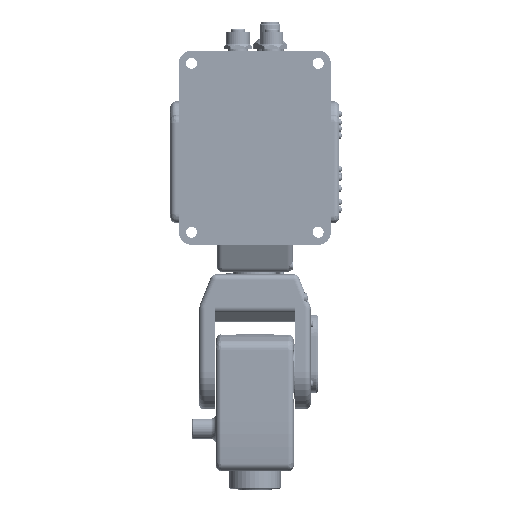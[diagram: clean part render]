
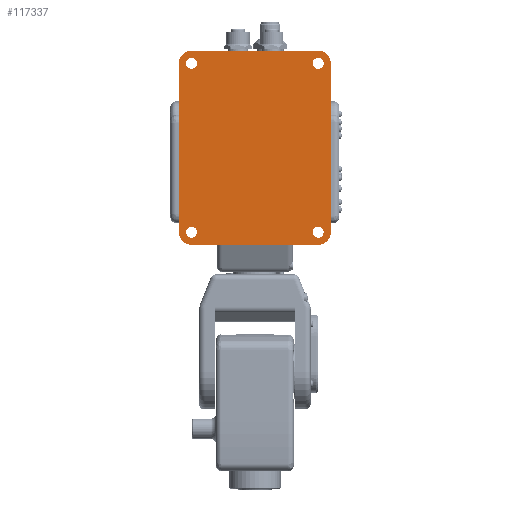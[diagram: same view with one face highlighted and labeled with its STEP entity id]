
A CAD part, front view. The second image highlights one B-rep face of the part: STEP entity #117337.
In plain terms, the highlighted planar face has unit normal (0, -1, 0).
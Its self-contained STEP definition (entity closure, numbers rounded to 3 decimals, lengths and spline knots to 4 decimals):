
#784=FACE_BOUND('',#16932,.T.);
#785=FACE_BOUND('',#16933,.T.);
#786=FACE_BOUND('',#16934,.T.);
#787=FACE_BOUND('',#16935,.T.);
#10019=FACE_OUTER_BOUND('',#16931,.T.);
#16931=EDGE_LOOP('',(#81354,#81355,#81356,#81357,#81358,#81359,#81360,#81361));
#16932=EDGE_LOOP('',(#81362));
#16933=EDGE_LOOP('',(#81363));
#16934=EDGE_LOOP('',(#81364));
#16935=EDGE_LOOP('',(#81365));
#22969=CIRCLE('',#124599,0.128);
#22971=CIRCLE('',#124602,0.128);
#22973=CIRCLE('',#124605,0.128);
#22975=CIRCLE('',#124608,0.128);
#22978=CIRCLE('',#124614,0.2953);
#22980=CIRCLE('',#124618,0.2953);
#22982=CIRCLE('',#124622,0.2953);
#22984=CIRCLE('',#124626,0.2953);
#25844=LINE('',#159416,#35551);
#28547=LINE('',#172721,#38254);
#28553=LINE('',#172765,#38260);
#28558=LINE('',#172810,#38265);
#35551=VECTOR('',#132249,0.3937);
#38254=VECTOR('',#137680,0.3937);
#38260=VECTOR('',#137694,0.3937);
#38265=VECTOR('',#137707,0.3937);
#45337=VERTEX_POINT('',#159413);
#45338=VERTEX_POINT('',#159415);
#47876=VERTEX_POINT('',#172690);
#47878=VERTEX_POINT('',#172696);
#47880=VERTEX_POINT('',#172702);
#47882=VERTEX_POINT('',#172708);
#47886=VERTEX_POINT('',#172718);
#47887=VERTEX_POINT('',#172720);
#47893=VERTEX_POINT('',#172758);
#47895=VERTEX_POINT('',#172764);
#47899=VERTEX_POINT('',#172803);
#47901=VERTEX_POINT('',#172809);
#56212=EDGE_CURVE('',#45338,#45337,#25844,.T.);
#60048=EDGE_CURVE('',#47876,#47876,#22969,.T.);
#60051=EDGE_CURVE('',#47878,#47878,#22971,.T.);
#60054=EDGE_CURVE('',#47880,#47880,#22973,.T.);
#60057=EDGE_CURVE('',#47882,#47882,#22975,.T.);
#60061=EDGE_CURVE('',#47887,#47886,#28547,.T.);
#60068=EDGE_CURVE('',#47893,#47887,#22978,.T.);
#60071=EDGE_CURVE('',#47895,#47893,#28553,.T.);
#60076=EDGE_CURVE('',#47899,#47895,#22980,.T.);
#60079=EDGE_CURVE('',#47901,#47899,#28558,.T.);
#60086=EDGE_CURVE('',#47886,#45338,#22982,.T.);
#60088=EDGE_CURVE('',#45337,#47901,#22984,.T.);
#81354=ORIENTED_EDGE('',*,*,#60076,.T.);
#81355=ORIENTED_EDGE('',*,*,#60071,.T.);
#81356=ORIENTED_EDGE('',*,*,#60068,.T.);
#81357=ORIENTED_EDGE('',*,*,#60061,.T.);
#81358=ORIENTED_EDGE('',*,*,#60086,.T.);
#81359=ORIENTED_EDGE('',*,*,#56212,.T.);
#81360=ORIENTED_EDGE('',*,*,#60088,.T.);
#81361=ORIENTED_EDGE('',*,*,#60079,.T.);
#81362=ORIENTED_EDGE('',*,*,#60048,.T.);
#81363=ORIENTED_EDGE('',*,*,#60051,.T.);
#81364=ORIENTED_EDGE('',*,*,#60054,.T.);
#81365=ORIENTED_EDGE('',*,*,#60057,.T.);
#107052=PLANE('',#124652);
#117337=ADVANCED_FACE('',(#10019,#784,#785,#786,#787),#107052,.F.);
#124599=AXIS2_PLACEMENT_3D('',#172692,#137649,#137650);
#124602=AXIS2_PLACEMENT_3D('',#172698,#137656,#137657);
#124605=AXIS2_PLACEMENT_3D('',#172704,#137663,#137664);
#124608=AXIS2_PLACEMENT_3D('',#172710,#137670,#137671);
#124614=AXIS2_PLACEMENT_3D('',#172759,#137688,#137689);
#124618=AXIS2_PLACEMENT_3D('',#172804,#137701,#137702);
#124622=AXIS2_PLACEMENT_3D('',#172866,#137715,#137716);
#124626=AXIS2_PLACEMENT_3D('',#172870,#137723,#137724);
#124652=AXIS2_PLACEMENT_3D('',#173149,#137782,#137783);
#132249=DIRECTION('',(1.,0.,0.));
#137649=DIRECTION('center_axis',(0.,1.,0.));
#137650=DIRECTION('ref_axis',(0.,0.,
1.));
#137656=DIRECTION('center_axis',(0.,1.,0.));
#137657=DIRECTION('ref_axis',(0.,0.,
1.));
#137663=DIRECTION('center_axis',(0.,1.,0.));
#137664=DIRECTION('ref_axis',(0.,0.,
1.));
#137670=DIRECTION('center_axis',(0.,1.,0.));
#137671=DIRECTION('ref_axis',(0.,0.,
1.));
#137680=DIRECTION('',(0.,0.,-1.));
#137688=DIRECTION('center_axis',(0.,-1.,0.));
#137689=DIRECTION('ref_axis',(0.,0.,
-1.));
#137694=DIRECTION('',(-1.,0.,0.));
#137701=DIRECTION('center_axis',(0.,-1.,0.));
#137702=DIRECTION('ref_axis',(-1.,0.,0.));
#137707=DIRECTION('',(0.,0.,1.));
#137715=DIRECTION('center_axis',(0.,-1.,0.));
#137716=DIRECTION('ref_axis',(1.,0.,0.));
#137723=DIRECTION('center_axis',(0.,-1.,0.));
#137724=DIRECTION('ref_axis',(0.,0.,
1.));
#137782=DIRECTION('center_axis',(0.,1.,0.));
#137783=DIRECTION('ref_axis',(-1.,0.,0.));
#159413=CARTESIAN_POINT('',(0.8644,-3.3713,-2.7559));
#159415=CARTESIAN_POINT('',(-2.0883,-3.3713,-2.7559));
#159416=CARTESIAN_POINT('',(0.1263,-3.3713,-2.7559));
#172690=CARTESIAN_POINT('',(0.8644,-3.3713,1.3484));
#172692=CARTESIAN_POINT('Origin',(0.8644,-3.3713,1.4764));
#172696=CARTESIAN_POINT('',(-2.0883,-3.3713,-2.5886));
#172698=CARTESIAN_POINT('Origin',(-2.0883,-3.3713,-2.4606));
#172702=CARTESIAN_POINT('',(-2.0883,-3.3713,1.3484));
#172704=CARTESIAN_POINT('Origin',(-2.0883,-3.3713,1.4764));
#172708=CARTESIAN_POINT('',(0.8644,-3.3713,-2.5886));
#172710=CARTESIAN_POINT('Origin',(0.8644,-3.3713,-2.4606));
#172718=CARTESIAN_POINT('',(-2.3836,-3.3713,-2.4606));
#172720=CARTESIAN_POINT('',(-2.3836,-3.3713,1.4764));
#172721=CARTESIAN_POINT('',(-2.3836,-3.3713,-1.4764));
#172758=CARTESIAN_POINT('',(-2.0883,-3.3713,1.7717));
#172759=CARTESIAN_POINT('Origin',(-2.0883,-3.3713,1.4764));
#172764=CARTESIAN_POINT('',(0.8644,-3.3713,1.7717));
#172765=CARTESIAN_POINT('',(-1.3501,-3.3713,1.7717));
#172803=CARTESIAN_POINT('',(1.1597,-3.3713,1.4764));
#172804=CARTESIAN_POINT('Origin',(0.8644,-3.3713,1.4764));
#172809=CARTESIAN_POINT('',(1.1597,-3.3713,-2.4606));
#172810=CARTESIAN_POINT('',(1.1597,-3.3713,0.4921));
#172866=CARTESIAN_POINT('Origin',(-2.0883,-3.3713,-2.4606));
#172870=CARTESIAN_POINT('Origin',(0.8644,-3.3713,-2.4606));
#173149=CARTESIAN_POINT('Origin',(-0.6119,-3.3713,
-0.4921));
